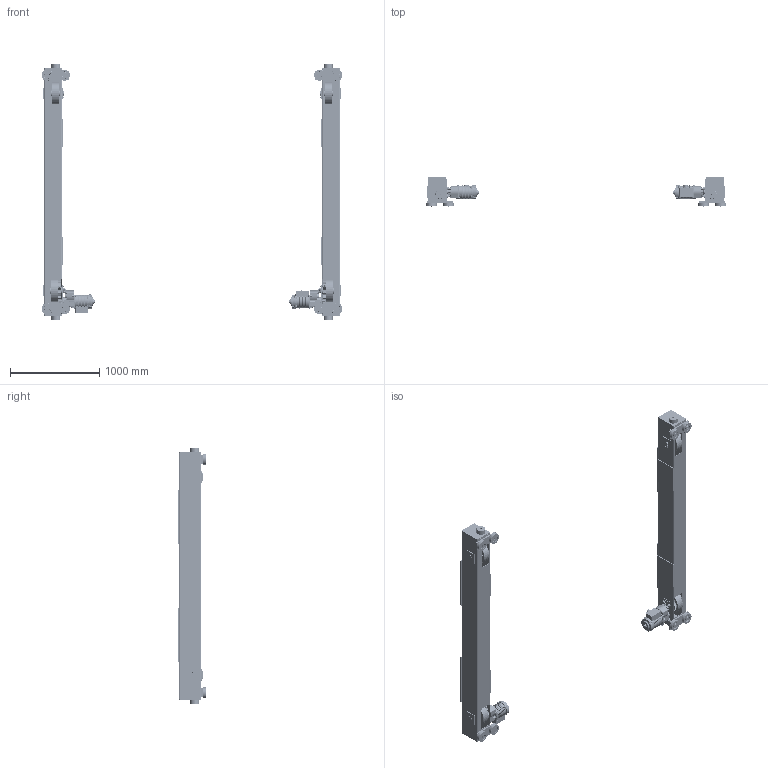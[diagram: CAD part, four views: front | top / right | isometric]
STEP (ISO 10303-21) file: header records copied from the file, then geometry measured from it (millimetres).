
FILE_DESCRIPTION (( 'STEP AP214' ), '1' );
FILE_NAME ('MTMS-3-1060.STEP', '2026-08-14T14:18:54', ( '' ), ( '' ), 'SwSTEP 2.0', 'SolidWorks 2026', '' );
FILE_SCHEMA (( 'AUTOMOTIVE_DESIGN' ));
Length unit declared in the file: inch
Products named in the file (73): 6244512; 62588; N6QO375E9108; N6QO3751108; 6244516; 9091281_B18.3.1M - 8 x 1.25 x 65 Hex SHCS -- 65CHX; N6QO375120; 62587; G1JE075S9609; G1JE075S9604; N6QO5751101; T1000-800-004_108.4375; MTMS-3-1060; G1JE075S9603; 6244518; 9798526_9798526; 6244522; 9093329_9093329; 9093350_9093350; G1JE075S9310; 6244515X_6244515SP; N6QO575E9102; N6QO5751102; 6244511; 9000608; 9091295_9091295; 62517_1060s 2.5 SQUARE BAR; 9091250_9091250; 62514_6251402; 9091272_9091272; 6244504; G1JE075S9303; 62516_1060s 2.5 SQUARE BAR; 9012709_Rectangular section spring washer BS 4464 - 16 (Type B); G1JE040S9707; 6244510; 9012712_9012712; N6QO575E91013; 9047280_9047280; N6WO975E91311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
Assembly tree (284 placements, depth 4):
  MTMS-3-1060
    62516_1060s 2.5 SQUARE BAR
      62514_6251402
        T1000-800-004_108.4375
        6244512
        6244511
        6244511
        6244510
        6244510
        6244510
      6244516  x2
      6244507  x2
      6244515X_6244515SP  x2
        6244514X_6244514D
        6244522
      MS116050
      6244504
      6244505
      6244506
    62517_1060s 2.5 SQUARE BAR
      62515_6251502
        T1000-800-004_108.4375
        6244512
        6244511
        6244511
        6244510
        6244510
        6244510
      6244516  x2
      6244507  x2
      6244515X_6244515SP  x2
        6244514X_6244514D
        6244522
      MS116050
      6244504
      6244505
      6244506
    6244513  x4
    6244518  x4
    9012711_9012711  x28
    9093327_9093327  x24
    N6QO5751101  x2
      N6QO575E91013
      N6QO575E91341
      N6WO975E91311
      9000710
      9091295_9091295
      9012712_9012712
    N6QO5751102  x2
      N6QO575E9102
      9000710
    N6QO3751108  x8
      N6QO375E9108
      9000608
      9047280_9047280
    N6QO375120  x8
    N6QO375207  x4
    9012514_9012514  x4
    9093329_9093329  x4
    G1JM075S_NORMAL
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Bounding box: 3364.67 x 321.57 x 2870.36 mm (x, y, z)
Volume: 72188410.5 mm3; surface area: 16356769 mm2
Topology: 308 solids, 372 shells, 17044 faces, 43180 edges, 27540 vertices
Faces by surface type: plane 9128, cylinder 3766, bspline 1658, cone 1310, torus 940, sphere 242
Entity records: 170738 total; most frequent: CARTESIAN_POINT 67691, ORIENTED_EDGE 21258, DIRECTION 20058, EDGE_CURVE 10633, AXIS2_PLACEMENT_3D 7601, VERTEX_POINT 6749, VECTOR 4856, LINE 4856
